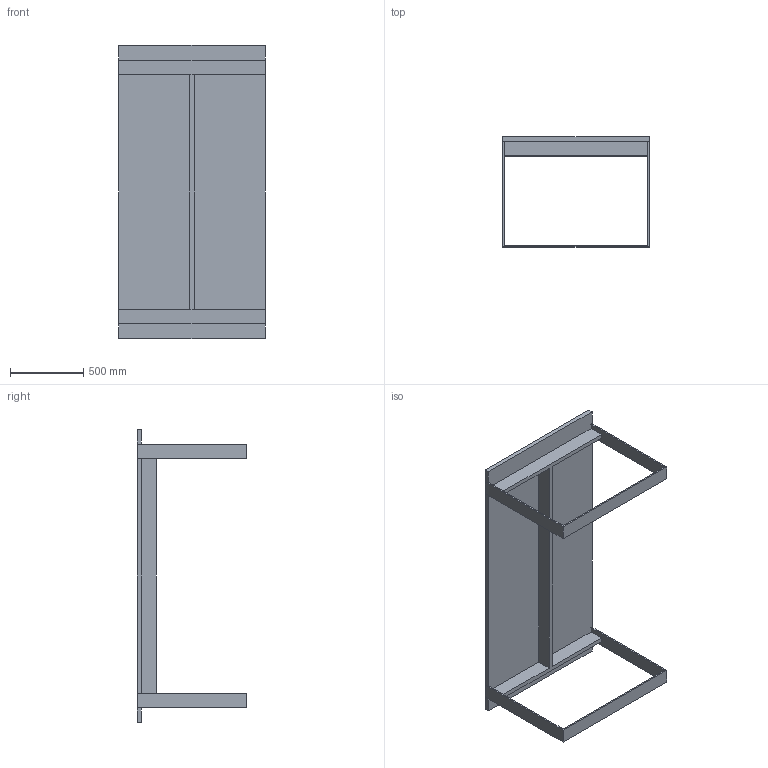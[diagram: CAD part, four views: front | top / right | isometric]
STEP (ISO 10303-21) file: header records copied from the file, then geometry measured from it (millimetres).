
FILE_DESCRIPTION (( 'STEP AP203' ), '1' );
FILE_NAME ('Haag 2000x1000x750.STEP', '2019-04-02T14:33:30', ( '' ), ( '' ), 'SwSTEP 2.0', 'SolidWorks 2019', '' );
FILE_SCHEMA (( 'CONFIG_CONTROL_DESIGN' ));
Length unit declared in the file: millimetre
Products named in the file (1): Haag 2000x1000x750
Bounding box: 1000 x 750 x 2000 mm (x, y, z)
Volume: 75730000 mm3; surface area: 6681800 mm2
Topology: 4 solids, 4 shells, 56 faces, 144 edges, 96 vertices
Faces by surface type: plane 56
Entity records: 1747 total; most frequent: CARTESIAN_POINT 297, ORIENTED_EDGE 288, DIRECTION 258, EDGE_CURVE 144, LINE 144, VECTOR 144, VERTEX_POINT 96, EDGE_LOOP 60
